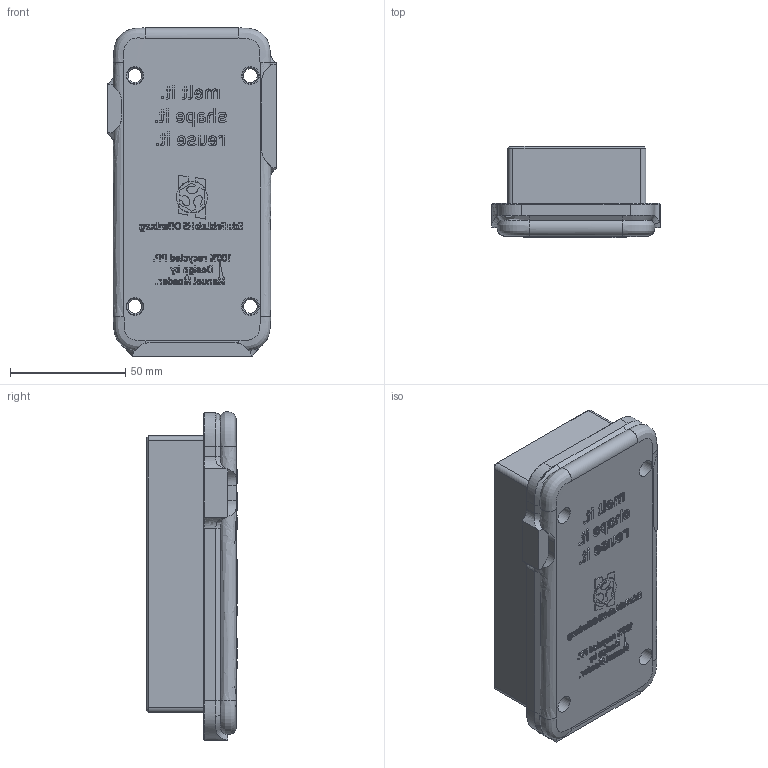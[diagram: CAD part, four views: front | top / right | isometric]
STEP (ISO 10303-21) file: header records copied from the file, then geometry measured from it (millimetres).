
FILE_DESCRIPTION(/* description */ (''),/* implementation_level */ '2;1');
FILE_NAME(/* name */ 'Insert.step',/* time_stamp */ '2023-06-01T14:19:11+02:00',/* author */ (''),/* organization */ (''),/* preprocessor_version */ 'ST-DEVELOPER v19.2',/* originating_system */ 'Autodesk Translation Framework v12.4.0.73',/* authorisation */ '');
FILE_SCHEMA (('AUTOMOTIVE_DESIGN { 1 0 10303 214 3 1 1 }'));
Products named in the file (1): Insert
Bounding box: 73.05 x 39.4 x 142.21 mm (x, y, z)
Volume: 302288.1 mm3; surface area: 38631.7 mm2
Topology: 1 solids, 1 shells, 1805 faces, 5066 edges, 3338 vertices
Faces by surface type: bspline 970, plane 797, cylinder 23, cone 15
Full cylindrical faces by diameter (mm): 6 x4, 6.5 x3, 7.6 x4
Entity records: 84403 total; most frequent: CARTESIAN_POINT 45433, ORIENTED_EDGE 9940, EDGE_CURVE 4970, DIRECTION 4769, VERTEX_POINT 3290, LINE 2961, VECTOR 2961, EDGE_LOOP 1936
